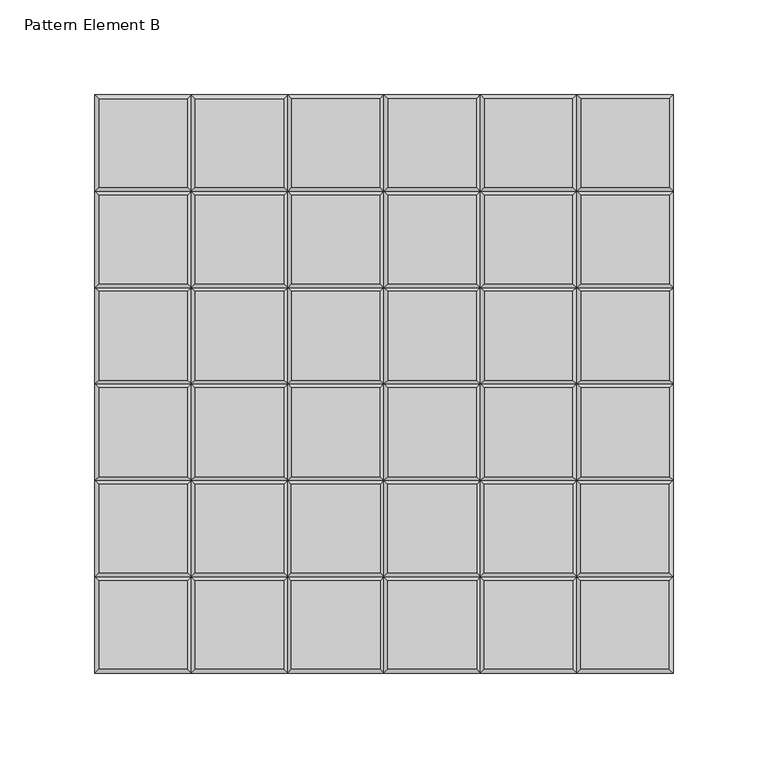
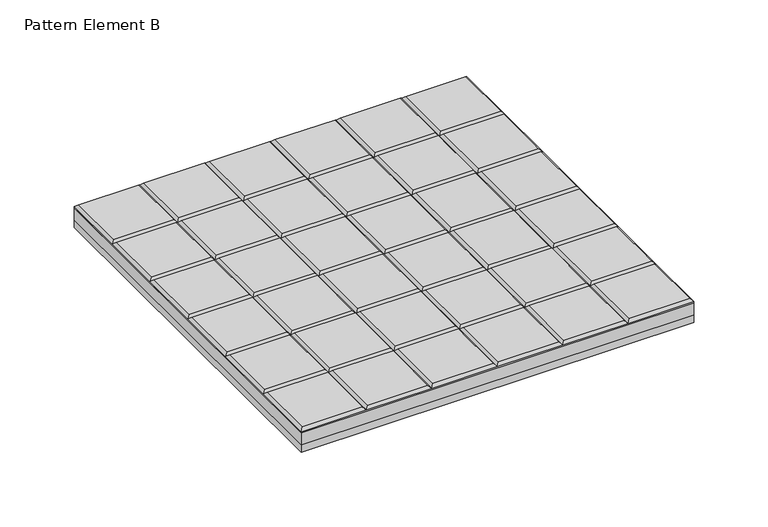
"""IFC4 building model written with IfcOpenShell, lengths in millimetres: proxy geometry, FilzFelt_Waffle_Manufacturing Drawing : Pattern Element B."""

from ifc_helpers import new_model, si_unit, frame, origin, origin_with_axes, place, context, project, spatial, polyline, outline, extrude, faceted_brep, source, transform, mapped, element, save


def pattern_element_b_e8d87f1d(model_context):
    return source(origin(), model_context, "Body", "SolidModel", [
        faceted_brep([(-48.8, -48.8, 19.0), (-48.8, -2.0, 19.0), (-50.8, 0.0, 17.0), (-50.8, -50.8, 17.0), (-48.8, 2.0, 19.0), (-48.8, 48.8, 19.0), (-50.8, 50.8, 17.0), (-48.8, 52.8, 19.0), (-48.8, 99.6, 19.0), (-50.8, 101.6, 17.0), (-50.8, 152.4, 17.0), (-48.8, 103.6, 19.0), (-48.8, 150.4, 19.0), (2.0, -48.8, 19.0), (2.0, -2.0, 19.0), (0.0, 0.0, 17.0), (0.0, -50.8, 17.0), (2.0, 2.0, 19.0), (2.0, 48.8, 19.0), (0.0, 50.8, 17.0), (2.0, 52.8, 19.0), (2.0, 99.6, 19.0), (0.0, 101.6, 17.0), (0.0, 152.4, 17.0), (2.0, 103.6, 19.0), (2.0, 150.4, 19.0), (-2.0, 150.4, 19.0), (-2.0, 103.6, 19.0), (-2.0, -2.0, 19.0), (-2.0, -48.8, 19.0), (-2.0, 48.8, 19.0), (-2.0, 2.0, 19.0), (-2.0, 99.6, 19.0), (-2.0, 52.8, 19.0), (52.8, -48.8, 19.0), (52.8, -2.0, 19.0), (50.8, 0.0, 17.0), (50.8, -50.8, 17.0), (52.8, 2.0, 19.0), (52.8, 48.8, 19.0), (50.8, 50.8, 17.0), (52.8, 52.8, 19.0), (52.8, 99.6, 19.0), (50.8, 101.6, 17.0), (50.8, 152.4, 17.0), (52.8, 103.6, 19.0), (52.8, 150.4, 19.0), (48.8, 150.4, 19.0), (48.8, 103.6, 19.0), (48.8, -2.0, 19.0), (48.8, -48.8, 19.0), (48.8, 48.8, 19.0), (48.8, 2.0, 19.0), (48.8, 99.6, 19.0), (48.8, 52.8, 19.0), (103.6, -48.8, 19.0), (103.6, -2.0, 19.0), (101.6, 0.0, 17.0), (101.6, -50.8, 17.0), (103.6, 2.0, 19.0), (103.6, 48.8, 19.0), (101.6, 50.8, 17.0), (103.6, 52.8, 19.0), (103.6, 99.6, 19.0), (101.6, 101.6, 17.0), (101.6, 152.4, 17.0), (103.6, 103.6, 19.0), (103.6, 150.4, 19.0), (99.6, 150.4, 19.0), (99.6, 103.6, 19.0), (99.6, -2.0, 19.0), (99.6, -48.8, 19.0), (99.6, 48.8, 19.0), (99.6, 2.0, 19.0), (99.6, 99.6, 19.0), (99.6, 52.8, 19.0), (150.4, -48.8, 19.0), (150.4, -2.0, 19.0), (150.4, 2.0, 19.0), (150.4, 48.8, 19.0), (150.4, 52.8, 19.0), (150.4, 99.6, 19.0), (150.4, 103.6, 19.0), (150.4, 150.4, 19.0), (152.4, 152.4, 16.0), (152.4, -50.8, 16.0), (-50.8, -50.8, 16.0), (-50.8, 152.4, 16.0), (152.4, 152.4, 17.0), (152.4, 101.6, 17.0), (152.4, 50.8, 17.0), (152.4, 0.0, 17.0), (152.4, -50.8, 17.0)], [[[0, 1, 2, 3]], [[4, 5, 6, 2]], [[7, 8, 9, 6]], [[10, 9, 11, 12]], [[13, 14, 15, 16]], [[17, 18, 19, 15]], [[20, 21, 22, 19]], [[23, 22, 24, 25]], [[22, 23, 26, 27]], [[28, 29, 16, 15]], [[30, 31, 15, 19]], [[32, 33, 19, 22]], [[34, 35, 36, 37]], [[38, 39, 40, 36]], [[41, 42, 43, 40]], [[44, 43, 45, 46]], [[43, 44, 47, 48]], [[49, 50, 37, 36]], [[51, 52, 36, 40]], [[53, 54, 40, 43]], [[55, 56, 57, 58]], [[59, 60, 61, 57]], [[62, 63, 64, 61]], [[65, 64, 66, 67]], [[64, 65, 68, 69]], [[70, 71, 58, 57]], [[72, 73, 57, 61]], [[74, 75, 61, 64]], [[1, 0, 29, 28]], [[5, 4, 31, 30]], [[8, 7, 33, 32]], [[14, 13, 50, 49]], [[18, 17, 52, 51]], [[21, 20, 54, 53]], [[35, 34, 71, 70]], [[39, 38, 73, 72]], [[42, 41, 75, 74]], [[56, 55, 76, 77]], [[60, 59, 78, 79]], [[63, 62, 80, 81]], [[67, 66, 82, 83]], [[11, 27, 26, 12]], [[24, 48, 47, 25]], [[45, 69, 68, 46]], [[84, 85, 86, 87]], [[85, 84, 88, 89, 90, 91, 92]], [[86, 85, 92, 58, 37, 16, 3]], [[87, 86, 3, 2, 6, 9, 10]], [[84, 87, 10, 23, 44, 65, 88]], [[29, 0, 3, 16]], [[50, 13, 16, 37]], [[71, 34, 37, 58]], [[58, 92, 76, 55]], [[2, 15, 31, 4]], [[15, 36, 52, 17]], [[36, 57, 73, 38]], [[57, 91, 78, 59]], [[15, 2, 1, 28]], [[36, 15, 14, 49]], [[57, 36, 35, 70]], [[91, 57, 56, 77]], [[6, 19, 33, 7]], [[19, 40, 54, 20]], [[40, 61, 75, 41]], [[61, 90, 80, 62]], [[19, 6, 5, 30]], [[40, 19, 18, 51]], [[61, 40, 39, 72]], [[90, 61, 60, 79]], [[9, 22, 27, 11]], [[22, 43, 48, 24]], [[43, 64, 69, 45]], [[64, 89, 82, 66]], [[22, 9, 8, 32]], [[43, 22, 21, 53]], [[64, 43, 42, 74]], [[89, 64, 63, 81]], [[77, 76, 92, 91]], [[79, 78, 91, 90]], [[81, 80, 90, 89]], [[88, 83, 82, 89]], [[12, 26, 23, 10]], [[25, 47, 44, 23]], [[46, 68, 65, 44]], [[83, 88, 65, 67]]]),
        faceted_brep([(150.4, -150.4, 19.0), (152.4, -152.4, 17.0), (152.4, -101.6, 17.0), (150.4, -103.6, 19.0), (150.4, -52.8, 19.0), (150.4, -99.6, 19.0), (152.4, -50.8, 17.0), (103.6, -150.4, 19.0), (101.6, -152.4, 17.0), (-150.4, -150.4, 19.0), (-152.4, -152.4, 17.0), (-101.6, -152.4, 17.0), (-103.6, -150.4, 19.0), (-52.8, -150.4, 19.0), (-99.6, -150.4, 19.0), (-50.8, -152.4, 17.0), (-2.0, -150.4, 19.0), (-48.8, -150.4, 19.0), (0.0, -152.4, 17.0), (48.8, -150.4, 19.0), (2.0, -150.4, 19.0), (50.8, -152.4, 17.0), (99.6, -150.4, 19.0), (52.8, -150.4, 19.0), (-150.4, -103.6, 19.0), (-152.4, -101.6, 17.0), (-150.4, 150.4, 19.0), (-152.4, 152.4, 17.0), (-152.4, 101.6, 17.0), (-150.4, 103.6, 19.0), (-150.4, -99.6, 19.0), (-150.4, -52.8, 19.0), (-152.4, -50.8, 17.0), (-150.4, -48.8, 19.0), (-150.4, -2.0, 19.0), (-152.4, 0.0, 17.0), (-150.4, 2.0, 19.0), (-150.4, 48.8, 19.0), (-152.4, 50.8, 17.0), (-150.4, 52.8, 19.0), (-150.4, 99.6, 19.0), (-103.6, 150.4, 19.0), (-101.6, 152.4, 17.0), (-99.6, 150.4, 19.0), (-52.8, 150.4, 19.0), (-50.8, 152.4, 17.0), (103.6, -103.6, 19.0), (103.6, -52.8, 19.0), (103.6, -99.6, 19.0), (-52.8, -103.6, 19.0), (-99.6, -103.6, 19.0), (-2.0, -103.6, 19.0), (-48.8, -103.6, 19.0), (48.8, -103.6, 19.0), (2.0, -103.6, 19.0), (99.6, -103.6, 19.0), (52.8, -103.6, 19.0), (-103.6, -103.6, 19.0), (-103.6, 103.6, 19.0), (-103.6, -99.6, 19.0), (-103.6, -52.8, 19.0), (-103.6, -48.8, 19.0), (-103.6, -2.0, 19.0), (-103.6, 2.0, 19.0), (-103.6, 48.8, 19.0), (-103.6, 52.8, 19.0), (-103.6, 99.6, 19.0), (-99.6, 103.6, 19.0), (-52.8, 103.6, 19.0), (-52.8, -2.0, 19.0), (-99.6, -2.0, 19.0), (-99.6, -48.8, 19.0), (-52.8, -48.8, 19.0), (-52.8, 48.8, 19.0), (-99.6, 48.8, 19.0), (-99.6, 2.0, 19.0), (-52.8, 2.0, 19.0), (-52.8, 99.6, 19.0), (-99.6, 99.6, 19.0), (-99.6, 52.8, 19.0), (-52.8, 52.8, 19.0), (-99.6, -99.6, 19.0), (-52.8, -99.6, 19.0), (-52.8, -52.8, 19.0), (-99.6, -52.8, 19.0), (-48.8, -99.6, 19.0), (-2.0, -99.6, 19.0), (-2.0, -52.8, 19.0), (-48.8, -52.8, 19.0), (2.0, -99.6, 19.0), (48.8, -99.6, 19.0), (48.8, -52.8, 19.0), (2.0, -52.8, 19.0), (52.8, -99.6, 19.0), (99.6, -99.6, 19.0), (99.6, -52.8, 19.0), (52.8, -52.8, 19.0), (-152.4, -152.4, 16.0), (-152.4, 152.4, 16.0), (-50.8, 152.4, 16.0), (-50.8, -50.8, 16.0), (152.4, -50.8, 16.0), (152.4, -152.4, 16.0), (-50.8, 101.6, 17.0), (-50.8, 50.8, 17.0), (-50.8, 0.0, 17.0), (-50.8, -50.8, 17.0), (0.0, -50.8, 17.0), (50.8, -50.8, 17.0), (101.6, -50.8, 17.0), (101.6, -101.6, 17.0), (-101.6, -101.6, 17.0), (-50.8, -101.6, 17.0), (0.0, -101.6, 17.0), (50.8, -101.6, 17.0), (-101.6, -50.8, 17.0), (-101.6, 0.0, 17.0), (-101.6, 50.8, 17.0), (-101.6, 101.6, 17.0)], [[[0, 1, 2, 3]], [[4, 5, 2, 6]], [[1, 0, 7, 8]], [[9, 10, 11, 12]], [[13, 14, 11, 15]], [[16, 17, 15, 18]], [[19, 20, 18, 21]], [[22, 23, 21, 8]], [[10, 9, 24, 25]], [[26, 27, 28, 29]], [[30, 31, 32, 25]], [[33, 34, 35, 32]], [[36, 37, 38, 35]], [[39, 40, 28, 38]], [[27, 26, 41, 42]], [[43, 44, 45, 42]], [[0, 3, 46, 7]], [[5, 4, 47, 48]], [[14, 13, 49, 50]], [[17, 16, 51, 52]], [[20, 19, 53, 54]], [[23, 22, 55, 56]], [[24, 9, 12, 57]], [[26, 29, 58, 41]], [[31, 30, 59, 60]], [[34, 33, 61, 62]], [[37, 36, 63, 64]], [[40, 39, 65, 66]], [[44, 43, 67, 68]], [[69, 70, 71, 72]], [[73, 74, 75, 76]], [[77, 78, 79, 80]], [[81, 82, 83, 84]], [[85, 86, 87, 88]], [[89, 90, 91, 92]], [[93, 94, 95, 96]], [[97, 98, 99, 100, 101, 102]], [[98, 97, 10, 25, 32, 35, 38, 28, 27]], [[99, 98, 27, 42, 45]], [[100, 99, 45, 103, 104, 105, 106]], [[101, 100, 106, 107, 108, 109, 6]], [[102, 101, 6, 2, 1]], [[97, 102, 1, 8, 21, 18, 15, 11, 10]], [[2, 5, 48, 110]], [[30, 25, 111, 59]], [[82, 81, 111, 112]], [[86, 85, 112, 113]], [[90, 89, 113, 114]], [[94, 93, 114, 110]], [[3, 2, 110, 46]], [[25, 24, 57, 111]], [[50, 49, 112, 111]], [[52, 51, 113, 112]], [[54, 53, 114, 113]], [[56, 55, 110, 114]], [[33, 32, 115, 61]], [[72, 71, 115, 106]], [[4, 6, 109, 47]], [[32, 31, 60, 115]], [[84, 83, 106, 115]], [[88, 87, 107, 106]], [[92, 91, 108, 107]], [[96, 95, 109, 108]], [[36, 35, 116, 63]], [[76, 75, 116, 105]], [[35, 34, 62, 116]], [[70, 69, 105, 116]], [[39, 38, 117, 65]], [[80, 79, 117, 104]], [[38, 37, 64, 117]], [[74, 73, 104, 117]], [[29, 28, 118, 58]], [[68, 67, 118, 103]], [[28, 40, 66, 118]], [[78, 77, 103, 118]], [[111, 11, 14, 50]], [[115, 111, 81, 84]], [[116, 115, 71, 70]], [[117, 116, 75, 74]], [[42, 118, 67, 43]], [[118, 117, 79, 78]], [[11, 111, 57, 12]], [[111, 115, 60, 59]], [[115, 116, 62, 61]], [[116, 117, 64, 63]], [[118, 42, 41, 58]], [[117, 118, 66, 65]], [[106, 112, 85, 88]], [[112, 15, 17, 52]], [[44, 68, 103, 45]], [[69, 72, 106, 105]], [[73, 76, 105, 104]], [[77, 80, 104, 103]], [[112, 106, 83, 82]], [[15, 112, 49, 13]], [[107, 113, 89, 92]], [[113, 18, 20, 54]], [[113, 107, 87, 86]], [[18, 113, 51, 16]], [[108, 114, 93, 96]], [[114, 21, 23, 56]], [[114, 108, 91, 90]], [[21, 114, 53, 19]], [[109, 110, 48, 47]], [[110, 8, 7, 46]], [[110, 109, 95, 94]], [[8, 110, 55, 22]]]),
        extrude(outline(polyline([(-152.4, -152.4), (-152.4, 152.4), (152.4, 152.4), (152.4, -152.4), (-152.4, -152.4)])), frame((0.0, 0.0, 6.0), z_axis=(0.0, 0.0, 1.0), x_axis=(1.0, 0.0, 0.0)), (0.0, 0.0, 1.0), 10.0),
        extrude(outline(polyline([(152.4, 152.4), (152.4, -152.4), (-152.4, -152.4), (-152.4, 152.4), (152.4, 152.4)])), origin_with_axes(), (0.0, 0.0, 1.0), 6.0),
    ])


if __name__ == "__main__":
    model = new_model("IFC4")
    model_context = context("Model", 3, world=origin())
    ifc_project = project(units=[si_unit("LENGTHUNIT", "METRE", prefix="MILLI")], contexts=[model_context])
    site = spatial("IfcSite", under=ifc_project)
    building = spatial("IfcBuilding", under=site)
    placement = place(None, origin())
    pattern_element_b_shape = pattern_element_b_e8d87f1d(model_context)
    element("IfcBuildingElementProxy", 1, Name="FilzFelt_Waffle_Manufacturing Drawing : Pattern Element B", ObjectType="FilzFelt_Waffle_Manufacturing Drawing : Pattern Element B", at=placement, inside=building, context=model_context, shape_type="MappedRepresentation", body=[
        mapped(pattern_element_b_shape, transform((0.0, 0.0, 0.0), x_axis=(1.0, 0.0, 0.0), y_axis=(0.0, 1.0, 0.0), z_axis=(0.0, 0.0, 1.0))),
    ])
    save(model, "model.ifc")
